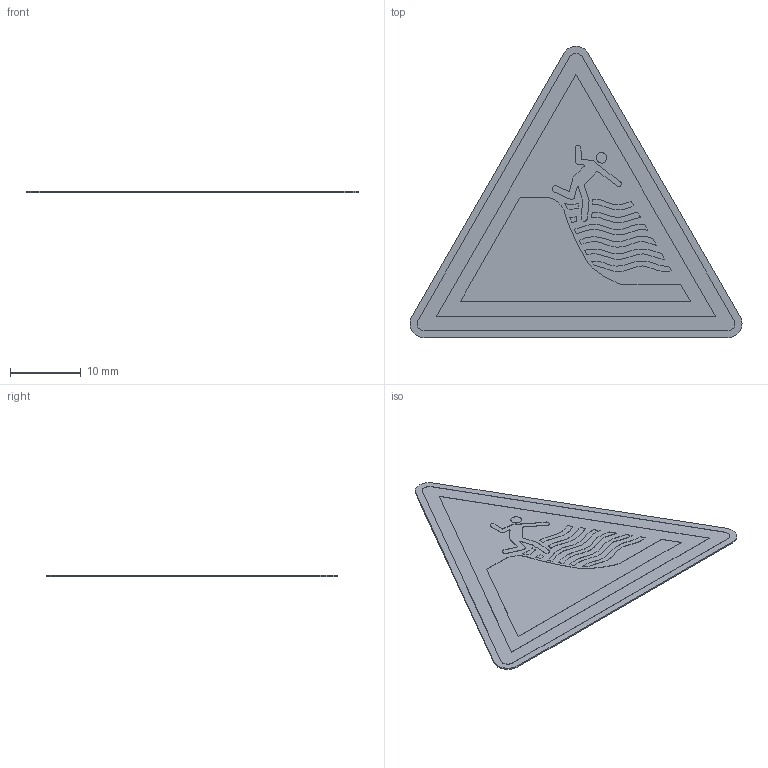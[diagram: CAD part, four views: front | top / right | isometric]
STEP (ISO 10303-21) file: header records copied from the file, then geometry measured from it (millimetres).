
FILE_DESCRIPTION (( 'STEP AP214' ), '1' );
FILE_NAME ('W066_Warnung vor steil abfallendem Strand.STEP', '2022-03-05T05:37:10', ( '' ), ( '' ), 'SwSTEP 2.0', 'SolidWorks 2021', '' );
FILE_SCHEMA (( 'AUTOMOTIVE_DESIGN' ));
Length unit declared in the file: millimetre
Products named in the file (1): W066_Warnung vor steil abfallendem Strand
Bounding box: 47.07 x 41.3 x 0.22 mm (x, y, z)
Volume: 225.8 mm3; surface area: 2187.3 mm2
Topology: 1 solids, 1 shells, 275 faces, 780 edges, 520 vertices
Faces by surface type: plane 254, cylinder 21
Entity records: 11725 total; most frequent: CARTESIAN_POINT 1576, ORIENTED_EDGE 1560, DIRECTION 1374, EDGE_CURVE 780, VECTOR 738, LINE 738, VERTEX_POINT 520, AXIS2_PLACEMENT_3D 318
